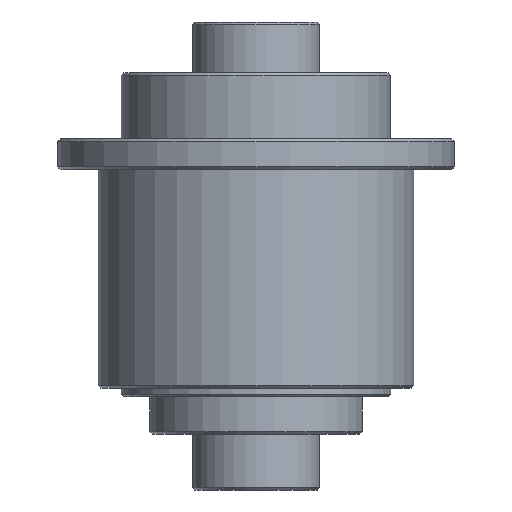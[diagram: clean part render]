
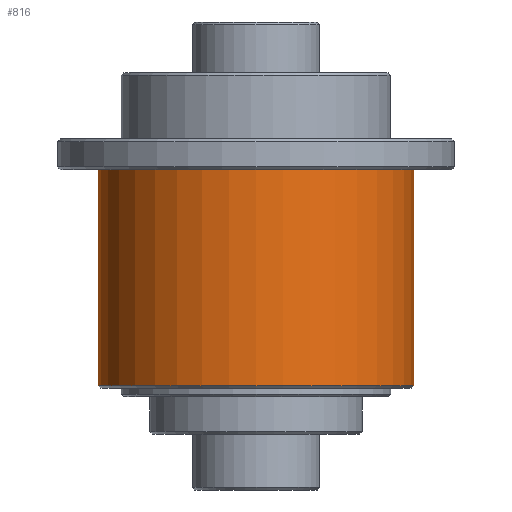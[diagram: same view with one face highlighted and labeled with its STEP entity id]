
A CAD part, front view. The second image highlights one B-rep face of the part: STEP entity #816.
In plain terms, the highlighted cylindrical face has radius 31 mm (diameter 62 mm), a partial arc.
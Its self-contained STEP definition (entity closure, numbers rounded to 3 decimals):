
#2 = EDGE_LOOP ( 'NONE', ( #1011, #2804, #1249, #2380 ) ) ;
#152 = CARTESIAN_POINT ( 'NONE',  ( 31., 0., 4. ) ) ;
#189 = VECTOR ( 'NONE', #1603, 1000. ) ;
#207 = LINE ( 'NONE', #152, #2817 ) ;
#219 = VERTEX_POINT ( 'NONE', #1969 ) ;
#261 = DIRECTION ( 'NONE',  ( 1., 0., 0. ) ) ;
#427 = FACE_OUTER_BOUND ( 'NONE', #2, .T. ) ;
#433 = DIRECTION ( 'NONE',  ( 1., 0., 0. ) ) ;
#531 = LINE ( 'NONE', #1901, #189 ) ;
#672 = CARTESIAN_POINT ( 'NONE',  ( 0., 0., 4. ) ) ;
#738 = CARTESIAN_POINT ( 'NONE',  ( 0., 0., -19. ) ) ;
#747 = DIRECTION ( 'NONE',  ( 1., 0., 0. ) ) ;
#816 = ADVANCED_FACE ( 'NONE', ( #427 ), #2061, .T. ) ;
#903 = EDGE_CURVE ( 'NONE', #2226, #2845, #1074, .T. ) ;
#1011 = ORIENTED_EDGE ( 'NONE', *, *, #1071, .F. ) ;
#1071 = EDGE_CURVE ( 'NONE', #2226, #2231, #531, .T. ) ;
#1074 = CIRCLE ( 'NONE', #2996, 31. ) ;
#1249 = ORIENTED_EDGE ( 'NONE', *, *, #2648, .T. ) ;
#1487 = DIRECTION ( 'NONE',  ( 0., 0., 1. ) ) ;
#1603 = DIRECTION ( 'NONE',  ( 0., 0., 1. ) ) ;
#1749 = DIRECTION ( 'NONE',  ( 0., 0., 1. ) ) ;
#1901 = CARTESIAN_POINT ( 'NONE',  ( -31., 0., 4. ) ) ;
#1956 = AXIS2_PLACEMENT_3D ( 'NONE', #672, #1487, #747 ) ;
#1969 = CARTESIAN_POINT ( 'NONE',  ( 31., 0., -19. ) ) ;
#2061 = CYLINDRICAL_SURFACE ( 'NONE', #1956, 31. ) ;
#2095 = CARTESIAN_POINT ( 'NONE',  ( 0., 0., -61.499 ) ) ;
#2225 = CIRCLE ( 'NONE', #3201, 31. ) ;
#2226 = VERTEX_POINT ( 'NONE', #2782 ) ;
#2231 = VERTEX_POINT ( 'NONE', #2526 ) ;
#2380 = ORIENTED_EDGE ( 'NONE', *, *, #3106, .F. ) ;
#2526 = CARTESIAN_POINT ( 'NONE',  ( -31., 0., -19. ) ) ;
#2648 = EDGE_CURVE ( 'NONE', #2845, #219, #207, .T. ) ;
#2782 = CARTESIAN_POINT ( 'NONE',  ( -31., 0., -61.499 ) ) ;
#2804 = ORIENTED_EDGE ( 'NONE', *, *, #903, .T. ) ;
#2817 = VECTOR ( 'NONE', #1749, 1000. ) ;
#2845 = VERTEX_POINT ( 'NONE', #3295 ) ;
#2996 = AXIS2_PLACEMENT_3D ( 'NONE', #2095, #3400, #261 ) ;
#3106 = EDGE_CURVE ( 'NONE', #2231, #219, #2225, .T. ) ;
#3201 = AXIS2_PLACEMENT_3D ( 'NONE', #738, #3316, #433 ) ;
#3295 = CARTESIAN_POINT ( 'NONE',  ( 31., 0., -61.499 ) ) ;
#3316 = DIRECTION ( 'NONE',  ( 0., 0., 1. ) ) ;
#3400 = DIRECTION ( 'NONE',  ( 0., 0., 1. ) ) ;
